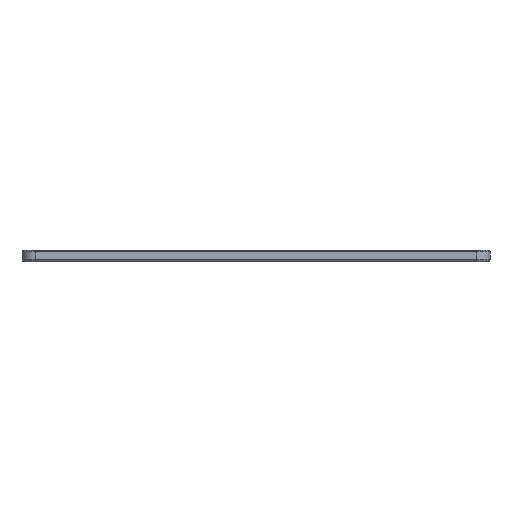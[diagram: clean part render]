
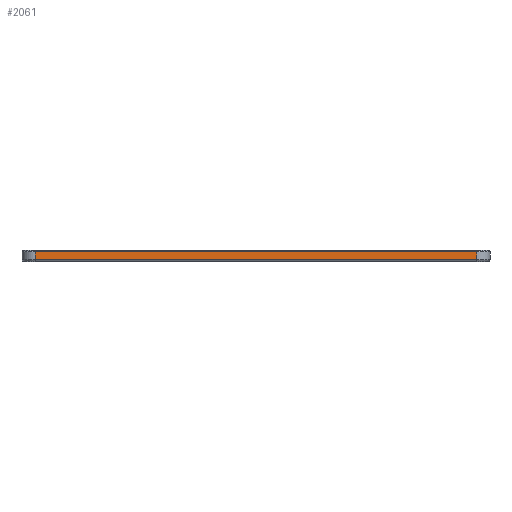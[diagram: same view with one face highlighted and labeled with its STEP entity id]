
A CAD part, front view. The second image highlights one B-rep face of the part: STEP entity #2061.
In plain terms, the highlighted planar face has unit normal (0, -1, 0).
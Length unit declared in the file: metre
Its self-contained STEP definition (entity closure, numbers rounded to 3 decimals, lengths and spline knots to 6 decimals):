
#502=ORIENTED_EDGE('',*,*,#842,.T.);
#503=ORIENTED_EDGE('',*,*,#962,.T.);
#504=ORIENTED_EDGE('',*,*,#963,.F.);
#505=ORIENTED_EDGE('',*,*,#964,.F.);
#842=EDGE_CURVE('',#1128,#1129,#1292,.T.);
#962=EDGE_CURVE('',#1129,#1192,#1376,.F.);
#963=EDGE_CURVE('',#1193,#1192,#1377,.F.);
#964=EDGE_CURVE('',#1128,#1193,#1378,.T.);
#1128=VERTEX_POINT('',#3103);
#1129=VERTEX_POINT('',#3105);
#1192=VERTEX_POINT('',#3347);
#1193=VERTEX_POINT('',#3349);
#1292=LINE('',#3106,#1484);
#1376=LINE('',#3346,#1568);
#1377=LINE('',#3348,#1569);
#1378=LINE('',#3350,#1570);
#1484=VECTOR('',#2461,1.);
#1568=VECTOR('',#2733,1.);
#1569=VECTOR('',#2734,1.);
#1570=VECTOR('',#2735,1.);
#1717=EDGE_LOOP('',(#502,#503,#504,#505));
#1871=FACE_BOUND('',#1717,.T.);
#1973=PLANE('',#2254);
#2061=ADVANCED_FACE('',(#1871),#1973,.F.);
#2254=AXIS2_PLACEMENT_3D('',#3345,#2731,#2732);
#2461=DIRECTION('',(1.,0.,0.));
#2731=DIRECTION('',(0.,1.,0.));
#2732=DIRECTION('',(1.,0.,0.));
#2733=DIRECTION('',(0.,0.,-1.));
#2734=DIRECTION('',(-1.,0.,0.));
#2735=DIRECTION('',(0.,0.,1.));
#3103=CARTESIAN_POINT('',(0.051,-0.1,0.097));
#3105=CARTESIAN_POINT('',(0.249,-0.1,0.097));
#3106=CARTESIAN_POINT('',(0.045,-0.1,0.097));
#3345=CARTESIAN_POINT('',(0.045,-0.1,0.096));
#3346=CARTESIAN_POINT('',(0.249,-0.1,0.096));
#3347=CARTESIAN_POINT('',(0.249,-0.1,0.1004));
#3348=CARTESIAN_POINT('',(0.051,-0.1,0.1004));
#3349=CARTESIAN_POINT('',(0.051,-0.1,0.1004));
#3350=CARTESIAN_POINT('',(0.051,-0.1,0.096));
